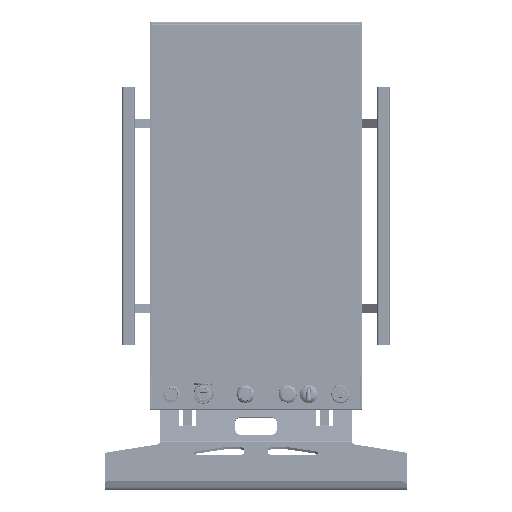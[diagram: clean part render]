
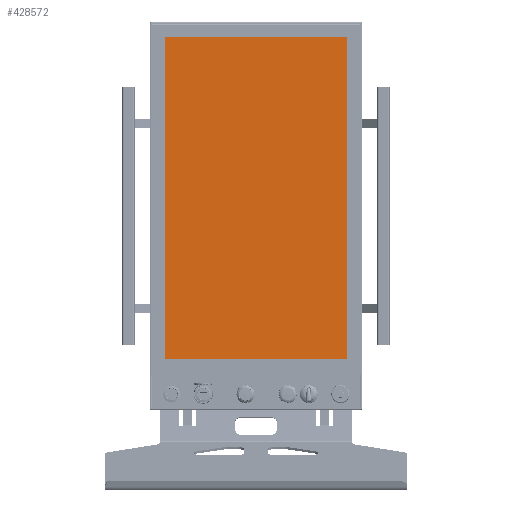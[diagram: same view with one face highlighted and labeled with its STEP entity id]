
A CAD part, top view. The second image highlights one B-rep face of the part: STEP entity #428572.
In plain terms, the highlighted planar face has unit normal (0, 0, 1) as drawn and (0, 1, 0) by its records, which use the part's own axes.
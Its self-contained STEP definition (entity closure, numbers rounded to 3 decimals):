
#7134 = VERTEX_POINT ( 'NONE', #261356 ) ;
#58809 = EDGE_CURVE ( 'NONE', #7134, #418030, #478673, .T. ) ;
#59249 = AXIS2_PLACEMENT_3D ( 'NONE', #488919, #184878, #74484 ) ;
#61854 = ORIENTED_EDGE ( 'NONE', *, *, #416789, .T. ) ;
#74484 = DIRECTION ( 'NONE',  ( 0., 0., 1. ) ) ;
#100057 = CARTESIAN_POINT ( 'NONE',  ( -266.88, 2.7, 150.645 ) ) ;
#105374 = VECTOR ( 'NONE', #476834, 1000. ) ;
#128563 = ORIENTED_EDGE ( 'NONE', *, *, #58809, .T. ) ;
#142969 = EDGE_LOOP ( 'NONE', ( #128563, #207989, #289494, #61854 ) ) ;
#161990 = LINE ( 'NONE', #395498, #233862 ) ;
#166880 = DIRECTION ( 'NONE',  ( 0., 0., 1. ) ) ;
#181304 = CARTESIAN_POINT ( 'NONE',  ( -266.88, 2.7, 150.645 ) ) ;
#184878 = DIRECTION ( 'NONE',  ( 0., 1., 0. ) ) ;
#194229 = VECTOR ( 'NONE', #224078, 1000. ) ;
#202011 = EDGE_CURVE ( 'NONE', #226599, #358749, #406431, .T. ) ;
#207989 = ORIENTED_EDGE ( 'NONE', *, *, #254507, .T. ) ;
#224078 = DIRECTION ( 'NONE',  ( 0., 0., -1. ) ) ;
#226599 = VERTEX_POINT ( 'NONE', #181304 ) ;
#233862 = VECTOR ( 'NONE', #166880, 1000. ) ;
#245544 = CARTESIAN_POINT ( 'NONE',  ( 266.88, 2.7, 150.645 ) ) ;
#251705 = VECTOR ( 'NONE', #405758, 1000. ) ;
#254507 = EDGE_CURVE ( 'NONE', #418030, #226599, #161990, .T. ) ;
#260358 = FACE_OUTER_BOUND ( 'NONE', #142969, .T. ) ;
#261356 = CARTESIAN_POINT ( 'NONE',  ( 266.88, 2.7, -150.645 ) ) ;
#289494 = ORIENTED_EDGE ( 'NONE', *, *, #202011, .T. ) ;
#295616 = PLANE ( 'NONE',  #59249 ) ;
#342219 = CARTESIAN_POINT ( 'NONE',  ( 266.88, 2.7, 150.645 ) ) ;
#358749 = VERTEX_POINT ( 'NONE', #245544 ) ;
#379796 = LINE ( 'NONE', #342219, #194229 ) ;
#395498 = CARTESIAN_POINT ( 'NONE',  ( -266.88, 2.7, -150.645 ) ) ;
#405758 = DIRECTION ( 'NONE',  ( -1., 0., 0. ) ) ;
#406431 = LINE ( 'NONE', #100057, #105374 ) ;
#416789 = EDGE_CURVE ( 'NONE', #358749, #7134, #379796, .T. ) ;
#418030 = VERTEX_POINT ( 'NONE', #460390 ) ;
#428572 = ADVANCED_FACE ( 'NONE', ( #260358 ), #295616, .T. ) ;
#460390 = CARTESIAN_POINT ( 'NONE',  ( -266.88, 2.7, -150.645 ) ) ;
#476834 = DIRECTION ( 'NONE',  ( 1., 0., 0. ) ) ;
#478673 = LINE ( 'NONE', #483573, #251705 ) ;
#483573 = CARTESIAN_POINT ( 'NONE',  ( 266.88, 2.7, -150.645 ) ) ;
#488919 = CARTESIAN_POINT ( 'NONE',  ( 0., 2.7, 0. ) ) ;
